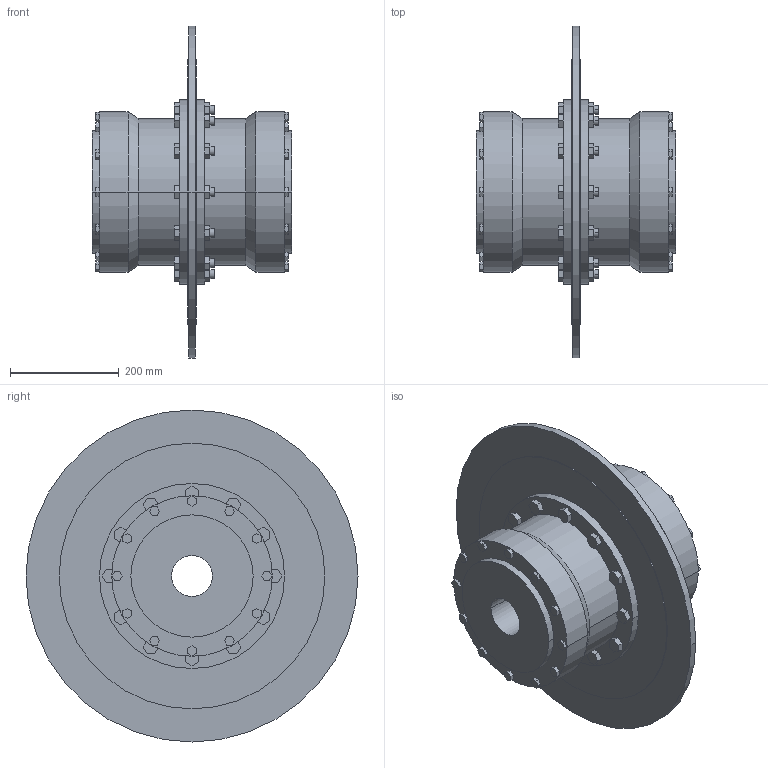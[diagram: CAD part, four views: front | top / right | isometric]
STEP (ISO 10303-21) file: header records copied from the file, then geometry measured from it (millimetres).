
FILE_DESCRIPTION((''),'2;1');
FILE_NAME('A19730600-0_ASM','2019-05-23T',('AB_Roschiwal'),('RENK AG'),'PRO/ENGINEER BY PARAMETRIC TECHNOLOGY CORPORATION, 2015440','PRO/ENGINEER BY PARAMETRIC TECHNOLOGY CORPORATION, 2015440','');
FILE_SCHEMA(('CONFIG_CONTROL_DESIGN'));
Length unit declared in the file: millimetre
Products named in the file (4): SBKT140_GEHAEUSE; SBKT140_NABE; SBKT140_BREMSSCHEIBE; A19730600-0_ASM
Assembly tree (4 placements, depth 2):
  A19730600-0_ASM
    SBKT140_GEHAEUSE
    SBKT140_NABE  x2
    SBKT140_BREMSSCHEIBE
Bounding box: 367 x 610 x 610 mm (x, y, z)
Volume: 22233613.3 mm3; surface area: 1823196.4 mm2
Topology: 4 solids, 4 shells, 470 faces, 1156 edges, 768 vertices
Faces by surface type: plane 370, cylinder 96, cone 4
Entity records: 13604 total; most frequent: CARTESIAN_POINT 2350, ORIENTED_EDGE 2264, DIRECTION 2240, EDGE_CURVE 1132, VECTOR 956, LINE 956, VERTEX_POINT 752, AXIS2_PLACEMENT_3D 642
